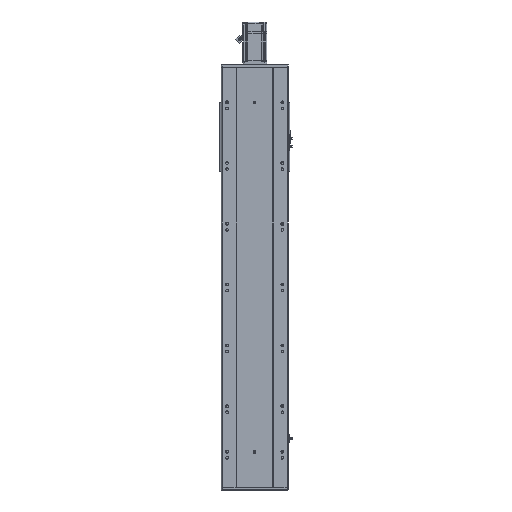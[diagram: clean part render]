
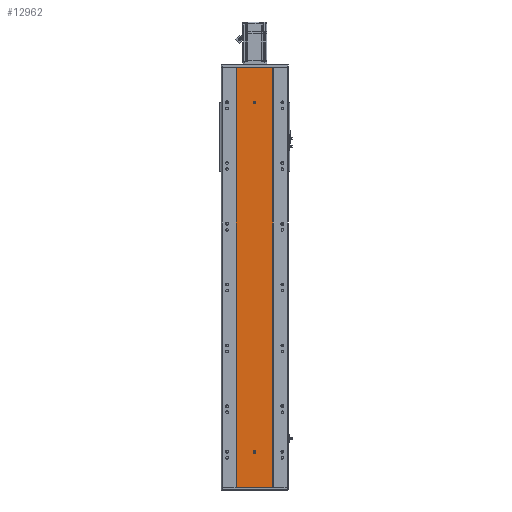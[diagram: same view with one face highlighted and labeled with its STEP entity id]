
A CAD part, front view. The second image highlights one B-rep face of the part: STEP entity #12962.
In plain terms, the highlighted planar face has unit normal (0, -1, 0).
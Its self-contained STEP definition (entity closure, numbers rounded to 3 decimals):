
#750 = DIRECTION ( 'NONE',  ( 0., 0., 1. ) ) ;
#818 = DIRECTION ( 'NONE',  ( 0., 0., -1. ) ) ;
#1289 = DIRECTION ( 'NONE',  ( 0., 0., -1. ) ) ;
#3871 = EDGE_CURVE ( 'NONE', #14973, #21045, #10621, .T. ) ;
#4589 = CARTESIAN_POINT ( 'NONE',  ( 60., 0., 1382. ) ) ;
#5805 = VECTOR ( 'NONE', #6630, 1000. ) ;
#6630 = DIRECTION ( 'NONE',  ( 1., 0., 0. ) ) ;
#7080 = AXIS2_PLACEMENT_3D ( 'NONE', #37518, #33954, #1289 ) ;
#7583 = LINE ( 'NONE', #39784, #5805 ) ;
#9244 = AXIS2_PLACEMENT_3D ( 'NONE', #47033, #13153, #818 ) ;
#9504 = ORIENTED_EDGE ( 'NONE', *, *, #26132, .F. ) ;
#10203 = CARTESIAN_POINT ( 'NONE',  ( -60., 0., 1382. ) ) ;
#10621 = LINE ( 'NONE', #55162, #19503 ) ;
#10772 = AXIS2_PLACEMENT_3D ( 'NONE', #61696, #21526, #55290 ) ;
#10927 = CARTESIAN_POINT ( 'NONE',  ( -4., 0., 119.5 ) ) ;
#11435 = CIRCLE ( 'NONE', #9244, 4. ) ;
#12962 = ADVANCED_FACE ( 'NONE', ( #28075, #68674, #53664 ), #33104, .F. ) ;
#13017 = LINE ( 'NONE', #28760, #13887 ) ;
#13153 = DIRECTION ( 'NONE',  ( 0., -1., 0. ) ) ;
#13887 = VECTOR ( 'NONE', #750, 1000. ) ;
#14083 = VERTEX_POINT ( 'NONE', #10927 ) ;
#14973 = VERTEX_POINT ( 'NONE', #31940 ) ;
#15231 = CARTESIAN_POINT ( 'NONE',  ( 0., 0., 1264. ) ) ;
#15684 = VERTEX_POINT ( 'NONE', #56281 ) ;
#15981 = VERTEX_POINT ( 'NONE', #15231 ) ;
#17614 = ORIENTED_EDGE ( 'NONE', *, *, #54335, .F. ) ;
#17753 = CIRCLE ( 'NONE', #7080, 4. ) ;
#18596 = ORIENTED_EDGE ( 'NONE', *, *, #38471, .F. ) ;
#19503 = VECTOR ( 'NONE', #61065, 1000. ) ;
#19604 = DIRECTION ( 'NONE',  ( 0., 0., -1. ) ) ;
#19670 = LINE ( 'NONE', #44208, #45297 ) ;
#19748 = VERTEX_POINT ( 'NONE', #31316 ) ;
#21045 = VERTEX_POINT ( 'NONE', #72333 ) ;
#21526 = DIRECTION ( 'NONE',  ( 0., 1., 0. ) ) ;
#21759 = ORIENTED_EDGE ( 'NONE', *, *, #67143, .F. ) ;
#22638 = ORIENTED_EDGE ( 'NONE', *, *, #61832, .F. ) ;
#23727 = DIRECTION ( 'NONE',  ( 0., 0., -1. ) ) ;
#25033 = DIRECTION ( 'NONE',  ( 0., -1., 0. ) ) ;
#26132 = EDGE_CURVE ( 'NONE', #48963, #21045, #19670, .T. ) ;
#26424 = AXIS2_PLACEMENT_3D ( 'NONE', #42625, #32261, #60127 ) ;
#27115 = CARTESIAN_POINT ( 'NONE',  ( 0., 0., 112.5 ) ) ;
#27176 = AXIS2_PLACEMENT_3D ( 'NONE', #70995, #48794, #37670 ) ;
#27191 = DIRECTION ( 'NONE',  ( 0., 0., -1. ) ) ;
#27866 = ORIENTED_EDGE ( 'NONE', *, *, #37611, .F. ) ;
#28075 = FACE_BOUND ( 'NONE', #57292, .T. ) ;
#28760 = CARTESIAN_POINT ( 'NONE',  ( 4., 0., 116.5 ) ) ;
#30152 = EDGE_CURVE ( 'NONE', #34726, #33383, #13017, .T. ) ;
#30710 = CIRCLE ( 'NONE', #27176, 4. ) ;
#31123 = ORIENTED_EDGE ( 'NONE', *, *, #40646, .T. ) ;
#31316 = CARTESIAN_POINT ( 'NONE',  ( 0., 0., 1272. ) ) ;
#31940 = CARTESIAN_POINT ( 'NONE',  ( -60., 0., 0. ) ) ;
#32261 = DIRECTION ( 'NONE',  ( 0., -1., 0. ) ) ;
#32822 = CARTESIAN_POINT ( 'NONE',  ( -60., 0., 1382. ) ) ;
#33104 = PLANE ( 'NONE',  #10772 ) ;
#33383 = VERTEX_POINT ( 'NONE', #46965 ) ;
#33954 = DIRECTION ( 'NONE',  ( 0., -1., 0. ) ) ;
#33960 = CIRCLE ( 'NONE', #26424, 4. ) ;
#34726 = VERTEX_POINT ( 'NONE', #47758 ) ;
#37518 = CARTESIAN_POINT ( 'NONE',  ( 0., 0., 1268. ) ) ;
#37611 = EDGE_CURVE ( 'NONE', #43743, #48963, #7583, .T. ) ;
#37670 = DIRECTION ( 'NONE',  ( 0., 0., -1. ) ) ;
#38471 = EDGE_CURVE ( 'NONE', #33383, #14083, #33960, .T. ) ;
#39784 = CARTESIAN_POINT ( 'NONE',  ( -60., 0., 1382. ) ) ;
#40646 = EDGE_CURVE ( 'NONE', #43743, #14973, #52380, .T. ) ;
#40723 = ORIENTED_EDGE ( 'NONE', *, *, #30152, .F. ) ;
#42128 = EDGE_CURVE ( 'NONE', #15981, #19748, #17753, .T. ) ;
#42625 = CARTESIAN_POINT ( 'NONE',  ( 0., 0., 119.5 ) ) ;
#43179 = CIRCLE ( 'NONE', #64562, 4. ) ;
#43743 = VERTEX_POINT ( 'NONE', #10203 ) ;
#44208 = CARTESIAN_POINT ( 'NONE',  ( 60., 0., 1382. ) ) ;
#45297 = VECTOR ( 'NONE', #27191, 1000. ) ;
#45760 = EDGE_CURVE ( 'NONE', #15684, #67415, #30710, .T. ) ;
#46965 = CARTESIAN_POINT ( 'NONE',  ( 4., 0., 119.5 ) ) ;
#47033 = CARTESIAN_POINT ( 'NONE',  ( 0., 0., 1268. ) ) ;
#47758 = CARTESIAN_POINT ( 'NONE',  ( 4., 0., 116.5 ) ) ;
#48794 = DIRECTION ( 'NONE',  ( 0., -1., 0. ) ) ;
#48963 = VERTEX_POINT ( 'NONE', #4589 ) ;
#52380 = LINE ( 'NONE', #32822, #59468 ) ;
#53664 = FACE_OUTER_BOUND ( 'NONE', #55611, .T. ) ;
#54335 = EDGE_CURVE ( 'NONE', #19748, #15981, #11435, .T. ) ;
#55162 = CARTESIAN_POINT ( 'NONE',  ( -60., 0., 0. ) ) ;
#55290 = DIRECTION ( 'NONE',  ( 0., 0., 1. ) ) ;
#55611 = EDGE_LOOP ( 'NONE', ( #57860, #9504, #27866, #31123 ) ) ;
#55865 = LINE ( 'NONE', #68849, #67337 ) ;
#56270 = EDGE_LOOP ( 'NONE', ( #40723, #22638, #63628, #21759, #18596 ) ) ;
#56281 = CARTESIAN_POINT ( 'NONE',  ( -4., 0., 116.5 ) ) ;
#57292 = EDGE_LOOP ( 'NONE', ( #61112, #17614 ) ) ;
#57860 = ORIENTED_EDGE ( 'NONE', *, *, #3871, .T. ) ;
#59468 = VECTOR ( 'NONE', #61149, 1000. ) ;
#60127 = DIRECTION ( 'NONE',  ( 0., 0., -1. ) ) ;
#61065 = DIRECTION ( 'NONE',  ( 1., 0., 0. ) ) ;
#61112 = ORIENTED_EDGE ( 'NONE', *, *, #42128, .F. ) ;
#61149 = DIRECTION ( 'NONE',  ( 0., 0., -1. ) ) ;
#61696 = CARTESIAN_POINT ( 'NONE',  ( -60., 0., 1382. ) ) ;
#61832 = EDGE_CURVE ( 'NONE', #67415, #34726, #43179, .T. ) ;
#63628 = ORIENTED_EDGE ( 'NONE', *, *, #45760, .F. ) ;
#64470 = CARTESIAN_POINT ( 'NONE',  ( 0., 0., 116.5 ) ) ;
#64562 = AXIS2_PLACEMENT_3D ( 'NONE', #64470, #25033, #19604 ) ;
#67143 = EDGE_CURVE ( 'NONE', #14083, #15684, #55865, .T. ) ;
#67337 = VECTOR ( 'NONE', #23727, 1000. ) ;
#67415 = VERTEX_POINT ( 'NONE', #27115 ) ;
#68674 = FACE_BOUND ( 'NONE', #56270, .T. ) ;
#68849 = CARTESIAN_POINT ( 'NONE',  ( -4., 0., 116.5 ) ) ;
#70995 = CARTESIAN_POINT ( 'NONE',  ( 0., 0., 116.5 ) ) ;
#72333 = CARTESIAN_POINT ( 'NONE',  ( 60., 0., 0. ) ) ;
